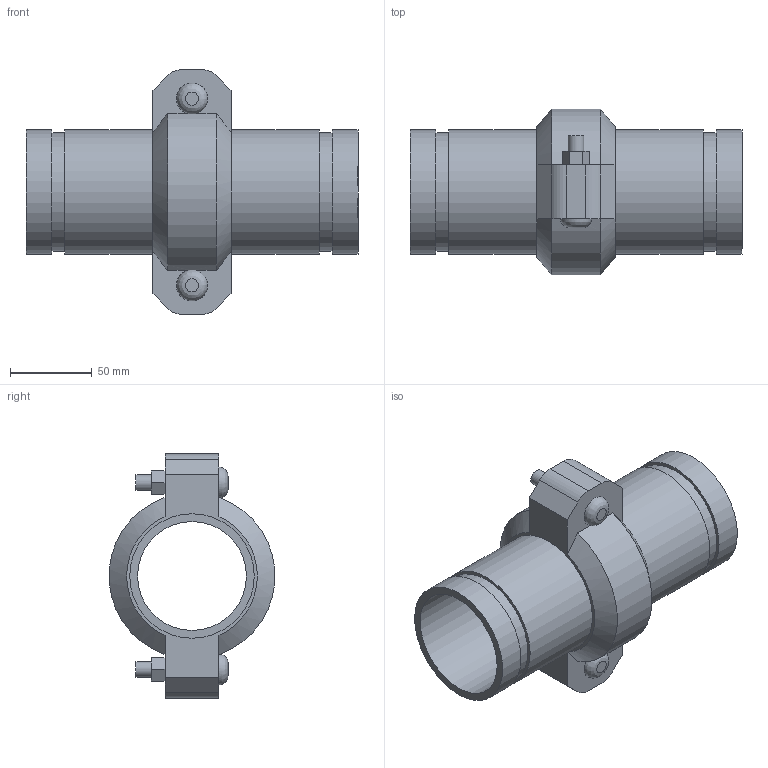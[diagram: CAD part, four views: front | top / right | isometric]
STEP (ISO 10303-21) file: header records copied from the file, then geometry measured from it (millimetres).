
FILE_DESCRIPTION(/* description */ ('VIC EXPANSION JOINT 1 COUPLING COMPRESSED STYLE 155 (OGS)','CAx-IF Rec.Pracs.---Representation and Presentation of Product Manufacturing Information (PMI)---4.0---2014-10-13'),/* implementation_level */ '2;1');
FILE_NAME(/* name */ 'C:\Users\kkamble\AppData\Roaming\Autodesk\ApplicationPlugins\Victaulic.Temp\A74\Victaulic_IPS_Expansion Joint_Compressed_1 Coupling_Style 155 (OGS)_02.5 (76.1) (65).stp',/* time_stamp */ '2021-06-27T00:14:22+02:00',/* author */ ('kkamble'),/* organization */ ('Victaulic'),/* preprocessor_version */ 'ST-DEVELOPER v17.2',/* originating_system */ 'Autodesk Inventor 2019',/* authorisation */ '');
FILE_SCHEMA (('AP242_MANAGED_MODEL_BASED_3D_ENGINEERING_MIM_LF { 1 0 10303 442 1 1 4 }'));
Length unit declared in the file: inch
Products named in the file (3): 155-02.5 (76.1); Nipple-02.5 (76.1); 075-02.5 (76.1)
Assembly tree (3 placements, depth 2):
  155-02.5 (76.1)
    Nipple-02.5 (76.1)  x2
    075-02.5 (76.1)
Bounding box: 203.2 x 101.25 x 149.86 mm (x, y, z)
Volume: 423061.6 mm3; surface area: 142701.5 mm2
Topology: 3 solids, 5 shells, 77 faces, 191 edges, 136 vertices
Faces by surface type: plane 46, cylinder 25, cone 4, bspline 2
Full cylindrical faces by diameter (mm): 9.525 x4, 11.43 x2, 66.65 x2, 72.263 x4, 76.2 x7
Entity records: 2257 total; most frequent: CARTESIAN_POINT 438, DIRECTION 353, ORIENTED_EDGE 322, EDGE_CURVE 161, AXIS2_PLACEMENT_3D 133, VERTEX_POINT 112, LINE 87, VECTOR 87
